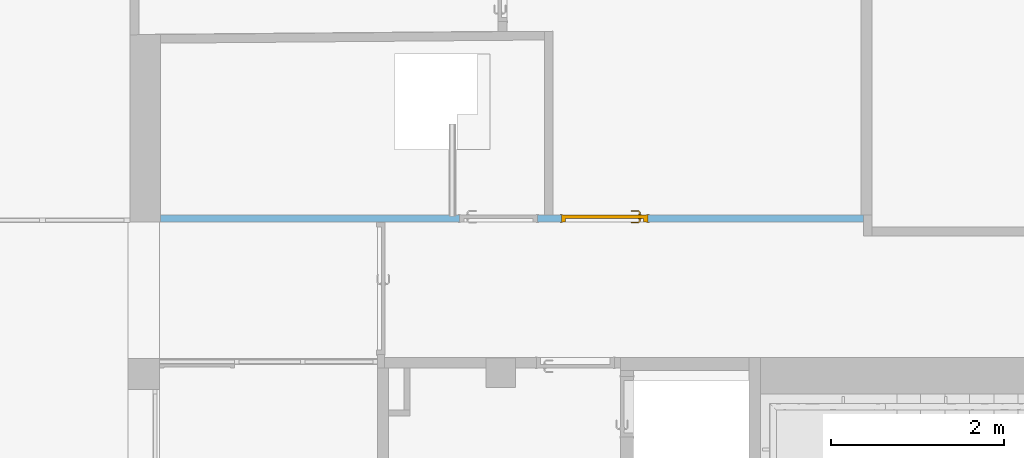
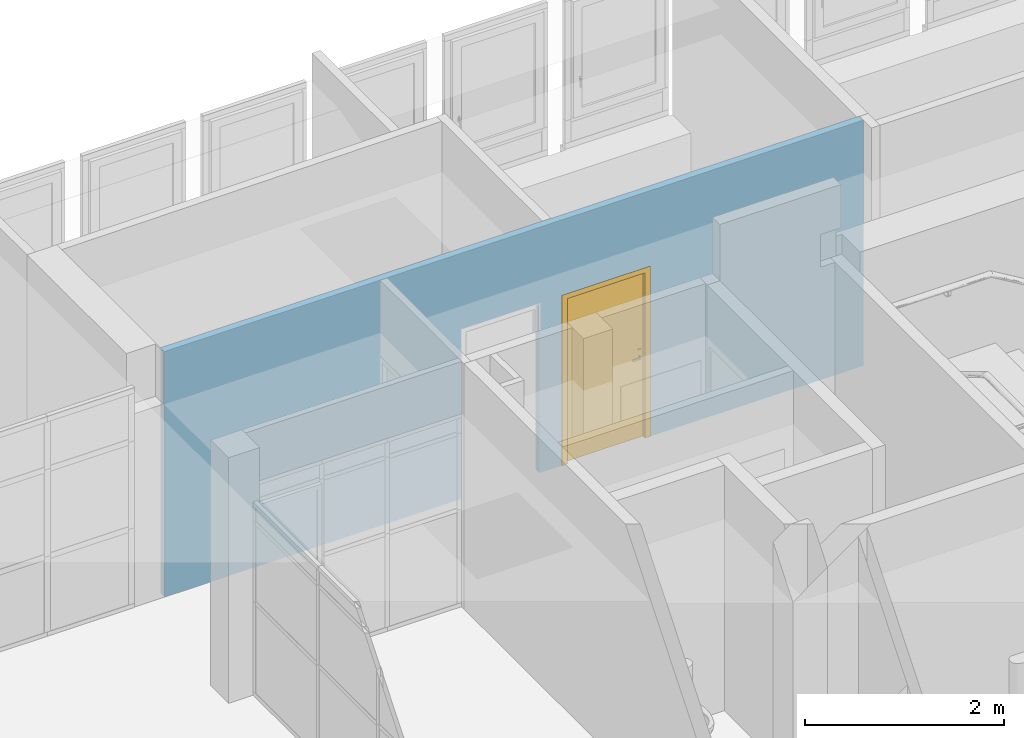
# One storey, part 69 of 97: 1 door, 2 openings, plus 1 element that does not belong to this part.
"""IFC4 building model written with IfcOpenShell, lengths in metres."""

from ifc_helpers import new_model, entity, si_unit, converted_unit, derived_unit, direction, frame, origin, place, context, subcontext, project, spatial, indexed_curve, outline, extrude, polygons, source, transform, mapped, material, material_list, layer, layer_set, constituent, constituent_set, type_object, type_shapes, element, fill, save


model = new_model("IFC4")

# Units and contexts
model_context = context("Model", 3, precision=1e-05, world=origin(), true_north=direction((6.12303176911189e-17, 1.0)))
body_context = subcontext(model_context, "Body", "Model", "MODEL_VIEW")
ifc_project = project(units=[si_unit("LENGTHUNIT", "METRE"), si_unit("AREAUNIT", "SQUARE_METRE"), si_unit("VOLUMEUNIT", "CUBIC_METRE"), converted_unit("PLANEANGLEUNIT", "DEGREE", entity("IfcRatioMeasure", 0.0174532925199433), si_unit("PLANEANGLEUNIT", "RADIAN"), dimensions=[0, 0, 0, 0, 0, 0, 0]), si_unit("MASSUNIT", "GRAM", prefix="KILO"), derived_unit("MASSDENSITYUNIT", [(si_unit("MASSUNIT", "GRAM", prefix="KILO"), 1), (si_unit("LENGTHUNIT", "METRE"), -3)]), derived_unit("MOMENTOFINERTIAUNIT", [(si_unit("LENGTHUNIT", "METRE"), 4)]), si_unit("TIMEUNIT", "SECOND"), si_unit("FREQUENCYUNIT", "HERTZ"), si_unit("THERMODYNAMICTEMPERATUREUNIT", "DEGREE_CELSIUS"), derived_unit("THERMALTRANSMITTANCEUNIT", [(si_unit("MASSUNIT", "GRAM", prefix="KILO"), 1), (si_unit("THERMODYNAMICTEMPERATUREUNIT", "KELVIN"), -1), (si_unit("TIMEUNIT", "SECOND"), -3)]), derived_unit("VOLUMETRICFLOWRATEUNIT", [(si_unit("LENGTHUNIT", "METRE"), 3), (si_unit("TIMEUNIT", "SECOND"), -1)]), si_unit("ELECTRICCURRENTUNIT", "AMPERE"), si_unit("ELECTRICVOLTAGEUNIT", "VOLT"), si_unit("POWERUNIT", "WATT"), si_unit("FORCEUNIT", "NEWTON", prefix="KILO"), si_unit("ILLUMINANCEUNIT", "LUX"), si_unit("LUMINOUSFLUXUNIT", "LUMEN"), si_unit("LUMINOUSINTENSITYUNIT", "CANDELA"), derived_unit("USERDEFINED", [(si_unit("MASSUNIT", "GRAM", prefix="KILO"), -1), (si_unit("LENGTHUNIT", "METRE"), -2), (si_unit("TIMEUNIT", "SECOND"), 3), (si_unit("LUMINOUSFLUXUNIT", "LUMEN"), 1)]), derived_unit("LINEARVELOCITYUNIT", [(si_unit("LENGTHUNIT", "METRE"), 1), (si_unit("TIMEUNIT", "SECOND"), -1)]), si_unit("PRESSUREUNIT", "PASCAL"), derived_unit("USERDEFINED", [(si_unit("LENGTHUNIT", "METRE"), -2), (si_unit("MASSUNIT", "GRAM", prefix="KILO"), 1), (si_unit("TIMEUNIT", "SECOND"), -2)]), derived_unit("LINEARFORCEUNIT", [(si_unit("MASSUNIT", "GRAM", prefix="KILO"), 1), (si_unit("LENGTHUNIT", "METRE"), 1), (si_unit("TIMEUNIT", "SECOND"), -2), (si_unit("LENGTHUNIT", "METRE"), -1)]), derived_unit("PLANARFORCEUNIT", [(si_unit("MASSUNIT", "GRAM", prefix="KILO"), 1), (si_unit("LENGTHUNIT", "METRE"), 1), (si_unit("TIMEUNIT", "SECOND"), -2), (si_unit("LENGTHUNIT", "METRE"), -2)])], contexts=[model_context])

# Site, building, storey
site_placement = place(None, origin())
site = spatial("IfcSite", under=ifc_project, at=site_placement, Name="Default", CompositionType="ELEMENT")
building_placement = place(site_placement, origin())
building = spatial("IfcBuilding", under=site, at=building_placement, Name="HOTEL CONSULAIRE BOULOGNE SUR MER", CompositionType="ELEMENT")
storey_placement = place(building_placement, frame((0.0, 0.0, 3.62152697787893)))
storey = spatial("IfcBuildingStorey", under=building, at=storey_placement, Name="Niveau 1", CompositionType="ELEMENT", Elevation=3.62152697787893)

# Wall, openings, door
ifc_material_1 = material(Name="Mur par défaut", Category="Divers")
ifc_layer = layer(ifc_material_1, 0.08, Name="Mur par défaut", Category="Divers")
ifc_layer_set = layer_set([ifc_layer], Name="Mur de base:Générique - Int. 80")
wall_type = type_object("IfcWallType", Name="Mur de base:Générique - Int. 80", PredefinedType="NOTDEFINED", material=ifc_layer_set)
wall_placement = place(storey_placement, frame((-5.1597731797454, -13.8309141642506, 0.0)))
wall = element("IfcWall", 1, at=wall_placement, inside=storey, type_object=wall_type, material=ifc_layer_set, Name="Mur de base:Générique - Int. 80", ObjectType="Mur de base:Générique - Int. 80", PredefinedType="NOTDEFINED", context=body_context, shape_type="Tessellation", body=[
    polygons([(8.104070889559, 0.0400000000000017, 5.41433564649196e-16), (8.104070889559, -0.0399999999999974, 5.41433564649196e-16), (5.61997356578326, -0.0399999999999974, 5.41433564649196e-16), (5.61997356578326, 0.0400000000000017, 5.41433564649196e-16), (8.074070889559, 0.0400000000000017, 5.41433564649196e-16), (4.34597356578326, -0.0399999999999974, 5.41433564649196e-16), (4.34597356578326, 0.0400000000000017, 5.41433564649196e-16), (4.42697356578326, 0.0400000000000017, 5.41433564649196e-16), (4.52697356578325, 0.0399999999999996, 5.41433564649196e-16), (4.61997356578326, 0.0399999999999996, 5.41433564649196e-16), (4.61997356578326, -0.0399999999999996, 5.41433564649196e-16), (8.104070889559, -0.0399999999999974, 3.0102145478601), (2.57924449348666, -0.0399999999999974, 3.0102145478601), (2.49924449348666, -0.0399999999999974, 3.0102145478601), (-1.96393817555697e-16, -0.0399999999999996, 3.0102145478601), (-1.96393817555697e-16, -0.0399999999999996, 5.41433564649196e-16), (2.49924449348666, -0.0399999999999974, 5.41433564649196e-16), (2.57924449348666, -0.0399999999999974, 5.41433564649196e-16), (3.44597356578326, -0.0399999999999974, 5.41433564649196e-16), (3.44597356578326, -0.0399999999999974, 2.07500000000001), (4.34597356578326, -0.0399999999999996, 2.07500000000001), (4.61997356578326, -0.0399999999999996, 2.07500000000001), (5.61997356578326, -0.0399999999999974, 2.07500000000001), (-4.20095427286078e-16, 0.0399999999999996, 3.0102145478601), (4.42697356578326, 0.0399999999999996, 3.0102145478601), (4.52697356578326, 0.0399999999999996, 3.0102145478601), (8.074070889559, 0.0400000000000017, 3.0102145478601), (8.104070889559, 0.0400000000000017, 3.0102145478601), (5.61997356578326, 0.0400000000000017, 2.07500000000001), (4.61997356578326, 0.0399999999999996, 2.07500000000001), (4.34597356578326, 0.0399999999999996, 2.07500000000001), (3.44597356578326, 0.0400000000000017, 2.07500000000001), (3.44597356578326, 0.0400000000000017, 5.41433564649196e-16), (-4.20095427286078e-16, 0.0399999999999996, 5.41433564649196e-16)], [[[2, 3, 4, 5, 1]], [[11, 6, 7, 8, 9, 10]], [[19, 18, 17, 16, 34, 33]], [[31, 21, 20, 32]], [[23, 22, 30, 29]], [[14, 15, 16, 17, 18, 19, 20, 21, 6, 11, 22, 23, 3, 2, 12, 13]], [[27, 28, 1, 5, 4, 29, 30, 10, 9, 8, 7, 31, 32, 33, 34, 24, 25, 26]], [[13, 12, 28, 27, 26, 25, 24, 15, 14]], [[34, 16, 15, 24]], [[7, 6, 21, 31]], [[3, 23, 29, 4]], [[32, 20, 19, 33]], [[2, 1, 28, 12]], [[11, 10, 30, 22]]], closed=True),
])
opening_1_placement = place(wall_placement, frame((3.44597356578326, -0.0400000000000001, 0.0)))
element("IfcOpeningElement", 2, at=opening_1_placement, cuts=wall, Name="Int. Simple:PP (0.83m x 2.04m):1", ObjectType="Opening", PredefinedType="OPENING", context=body_context, shape_type="SweptSolid", body=[
    extrude(outline(indexed_curve([(0.0, 0.9), (0.0, -5.08607527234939e-30), (2.075, -5.08607527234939e-30), (2.075, 0.9), (0.0, 0.9)], self_intersect=False)), frame((0.0, 0.0, 0.0), z_axis=(0.0, 1.0, 0.0), x_axis=(0.0, 0.0, 1.0)), (0.0, 0.0, 1.0), 0.08),
])
opening_2_placement = place(wall_placement, frame((4.61997356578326, -0.039999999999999, 0.0)))
opening_2 = element("IfcOpeningElement", 3, at=opening_2_placement, cuts=wall, Name="Int. Simple:PP0.93x2.04:1", ObjectType="Opening", PredefinedType="OPENING", context=body_context, shape_type="SweptSolid", body=[
    extrude(outline(indexed_curve([(0.0, -4.28176569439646e-30), (2.075, -4.28176569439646e-30), (2.075, 1.0), (0.0, 1.0), (0.0, -4.28176569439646e-30)], self_intersect=False)), frame((0.0, 0.0, 0.0), z_axis=(0.0, 1.0, 0.0), x_axis=(0.0, 0.0, 1.0)), (0.0, 0.0, 1.0), 0.08),
])
ifc_material_2 = material(Name="Finition Peinture - Blanc satiné", Category="Peinture")
ifc_constituent_1 = constituent(ifc_material_2, Name="Finition Peinture - Blanc satiné", Category="Matériaux")
ifc_material_3 = material(Name="Bois - Panneau de porte", Category="Bois")
ifc_constituent_2 = constituent(ifc_material_3, Name="Bois - Panneau de porte", Category="Matériaux")
ifc_material_4 = material(Name="Bois - Cadre de porte", Category="Bois")
ifc_constituent_3 = constituent(ifc_material_4, Name="Bois - Cadre de porte", Category="Matériaux")
ifc_constituent_set = constituent_set(constituents=[ifc_constituent_1, ifc_constituent_2, ifc_constituent_3], Name="MaterialConstituentSet")
ifc_material_list = material_list([ifc_material_2, ifc_material_4, ifc_material_4, ifc_material_3])
door_type = type_object("IfcDoorType", Name="Int. Simple:PP0.93x2.04", OperationType="NOTDEFINED", PredefinedType="DOOR", material=ifc_material_list)
shared_shape = source(origin(), body_context, "Body", "Tessellation", [
    polygons([(0.075000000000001, -0.00500000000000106, 0.870000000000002), (0.0846472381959, -0.00500000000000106, 0.866003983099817), (0.0950000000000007, -0.00500000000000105, 0.86464101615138), (0.105352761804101, -0.00500000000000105, 0.866003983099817), (0.115, -0.00500000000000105, 0.870000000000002), (0.114999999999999, -0.00500000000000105, 1.08), (0.1053527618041, -0.00500000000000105, 1.08399601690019), (0.0949999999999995, -0.00500000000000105, 1.08535898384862), (0.0846472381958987, -0.00500000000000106, 1.08399601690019), (0.0749999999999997, -0.00500000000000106, 1.08), (0.0749999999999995, -1.06594733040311e-15, 0.870000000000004), (0.0749999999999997, -1.06594733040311e-15, 1.08), (0.0846472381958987, -1.06594733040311e-15, 1.08399601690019), (0.0949999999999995, -1.05748743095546e-15, 1.08535898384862), (0.1053527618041, -1.05748743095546e-15, 1.08399601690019), (0.114999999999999, -1.04902753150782e-15, 1.08), (0.115, -1.04902753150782e-15, 0.870000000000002), (0.105352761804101, -1.05748743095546e-15, 0.866003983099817), (0.0950000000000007, -1.05748743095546e-15, 0.86464101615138), (0.0846472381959, -1.06594733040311e-15, 0.866003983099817)], [[[4, 5, 6, 7, 8, 9, 10, 1, 2, 3]], [[15, 16, 17, 18, 19, 20, 11, 12, 13, 14]], [[11, 20, 2, 1]], [[2, 20, 19, 3]], [[19, 18, 4, 3]], [[18, 17, 5, 4]], [[6, 5, 17, 16]], [[16, 15, 7, 6]], [[7, 15, 14, 8]], [[14, 13, 9, 8]], [[13, 12, 10, 9]], [[1, 10, 12, 11]]], closed=True),
    polygons([(0.114999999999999, 0.0399999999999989, 1.08), (0.1053527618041, 0.0399999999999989, 1.08399601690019), (0.0949999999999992, 0.0399999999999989, 1.08535898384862), (0.0846472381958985, 0.0399999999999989, 1.08399601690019), (0.0749999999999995, 0.0399999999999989, 1.08), (0.075000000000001, 0.0399999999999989, 0.870000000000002), (0.0846472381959, 0.0399999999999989, 0.866003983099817), (0.0950000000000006, 0.0399999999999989, 0.86464101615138), (0.105352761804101, 0.0399999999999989, 0.866003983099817), (0.115, 0.0399999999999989, 0.870000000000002), (0.114999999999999, 0.0449999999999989, 1.08), (0.115, 0.0449999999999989, 0.870000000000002), (0.105352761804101, 0.0449999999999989, 0.866003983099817), (0.0950000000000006, 0.0449999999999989, 0.86464101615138), (0.0846472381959, 0.0449999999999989, 0.866003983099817), (0.0749999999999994, 0.0449999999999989, 0.870000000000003), (0.0749999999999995, 0.0449999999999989, 1.08), (0.0846472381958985, 0.0449999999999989, 1.08399601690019), (0.0949999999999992, 0.0449999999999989, 1.08535898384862), (0.1053527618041, 0.0449999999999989, 1.08399601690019)], [[[9, 10, 1, 2, 3, 4, 5, 6, 7, 8]], [[20, 11, 12, 13, 14, 15, 16, 17, 18, 19]], [[11, 20, 2, 1]], [[2, 20, 19, 3]], [[19, 18, 4, 3]], [[18, 17, 5, 4]], [[6, 5, 17, 16]], [[16, 15, 7, 6]], [[7, 15, 14, 8]], [[14, 13, 9, 8]], [[13, 12, 10, 9]], [[1, 10, 12, 11]]], closed=True),
    polygons([(0.0889999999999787, -0.00500000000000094, 1.007), (0.0929747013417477, -0.00500000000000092, 1.00778044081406), (0.097025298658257, -0.0050000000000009, 1.00778044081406), (0.101000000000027, -0.00500000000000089, 1.00699999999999), (0.101000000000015, -0.00500000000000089, 0.993000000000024), (0.0970252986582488, -0.0050000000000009, 0.992219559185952), (0.0929747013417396, -0.00500000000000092, 0.99221955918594), (0.0889999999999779, -0.00500000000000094, 0.992999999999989), (0.0889999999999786, -0.0326509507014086, 1.007), (0.0929747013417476, -0.0310045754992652, 1.00778044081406), (0.0970252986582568, -0.0293267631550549, 1.00778044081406), (0.101000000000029, -0.0276803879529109, 1.007), (0.101000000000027, -0.0276803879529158, 0.993000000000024), (0.0970252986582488, -0.0293267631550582, 0.992219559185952), (0.0929747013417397, -0.0310045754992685, 0.99221955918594), (0.0889999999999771, -0.0326509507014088, 0.992999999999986), (0.107377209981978, -0.0510281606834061, 1.007), (0.109023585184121, -0.0470534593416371, 1.00778044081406), (0.110701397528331, -0.0430028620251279, 1.00778044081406), (0.112347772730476, -0.0390281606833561, 1.007), (0.112347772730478, -0.0390281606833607, 0.993000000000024), (0.110701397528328, -0.0430028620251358, 0.992219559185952), (0.109023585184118, -0.047053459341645, 0.99221955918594), (0.107377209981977, -0.0510281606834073, 0.992999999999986), (0.195018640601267, -0.0510281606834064, 1.00699999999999), (0.195018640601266, -0.0510281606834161, 0.992999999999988), (0.195018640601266, -0.0470534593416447, 0.99221955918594), (0.195018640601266, -0.0430028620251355, 0.992219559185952), (0.195018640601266, -0.039028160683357, 0.993000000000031), (0.195018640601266, -0.0390281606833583, 1.007), (0.195018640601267, -0.0430028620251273, 1.00778044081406), (0.195018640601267, -0.0470534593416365, 1.00778044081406), (0.147307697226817, -0.0510281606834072, 1.007), (0.152860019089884, -0.045028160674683, 1.0078786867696), (0.15368320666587, -0.039028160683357, 1.007), (0.147307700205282, -0.0510281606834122, 0.992999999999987), (0.152860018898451, -0.0450281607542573, 0.992121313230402), (0.153683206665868, -0.039028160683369, 0.993000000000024)], [[[2, 3, 4, 5, 6, 7, 8, 1]], [[21, 20, 35, 30, 29, 38]], [[9, 10, 2, 1]], [[10, 18, 19, 11, 3, 2]], [[11, 12, 4, 3]], [[5, 4, 12, 13]], [[26, 27, 28, 29, 30, 31, 32, 25]], [[13, 14, 6, 5]], [[14, 22, 23, 15, 7, 6]], [[15, 16, 8, 7]], [[1, 8, 16, 9]], [[17, 18, 10, 9]], [[19, 20, 12, 11]], [[13, 12, 20, 21]], [[21, 22, 14, 13]], [[23, 24, 16, 15]], [[9, 16, 24, 17]], [[33, 32, 34]], [[25, 32, 33]], [[18, 17, 33]], [[34, 35, 19]], [[20, 19, 35]], [[35, 31, 30]], [[32, 31, 34]], [[31, 35, 34]], [[18, 33, 34]], [[18, 34, 19]], [[38, 28, 37]], [[36, 37, 27]], [[21, 38, 22]], [[38, 29, 28]], [[26, 36, 27]], [[24, 23, 36]], [[36, 23, 37]], [[23, 22, 37]], [[22, 38, 37]], [[27, 37, 28]], [[17, 24, 36, 26, 25, 33]]], closed=True),
    polygons([(0.10100000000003, 0.0449999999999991, 0.993000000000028), (0.101000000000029, 0.0449999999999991, 1.007), (0.0970252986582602, 0.0449999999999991, 1.00778044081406), (0.092974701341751, 0.0449999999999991, 1.00778044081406), (0.0889999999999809, 0.044999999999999, 1.007), (0.0889999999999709, 0.044999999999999, 0.992999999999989), (0.0929747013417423, 0.0449999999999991, 0.99221955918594), (0.0970252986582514, 0.0449999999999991, 0.992219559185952), (0.10100000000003, 0.067485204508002, 0.993000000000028), (0.10100000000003, 0.0674852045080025, 1.007), (0.0970252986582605, 0.0691315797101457, 1.00778044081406), (0.0929747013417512, 0.070809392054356, 1.00778044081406), (0.088999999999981, 0.0724557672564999, 1.007), (0.0889999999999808, 0.072455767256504, 0.992999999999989), (0.092974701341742, 0.0708093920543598, 0.99221955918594), (0.0970252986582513, 0.0691315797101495, 0.992219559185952), (0.112485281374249, 0.0789704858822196, 0.993000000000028), (0.112485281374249, 0.0789704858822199, 1.007), (0.110838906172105, 0.0829451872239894, 1.00778044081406), (0.109161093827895, 0.0869957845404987, 1.00778044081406), (0.107514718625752, 0.0909704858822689, 1.007), (0.107514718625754, 0.090970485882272, 0.992999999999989), (0.109161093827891, 0.0869957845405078, 0.99221955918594), (0.110838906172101, 0.0829451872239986, 0.992219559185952), (0.195045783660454, 0.0789704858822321, 0.993000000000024), (0.195045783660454, 0.0829451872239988, 0.992219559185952), (0.195045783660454, 0.086995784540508, 0.99221955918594), (0.195045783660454, 0.0909704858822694, 0.992999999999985), (0.195045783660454, 0.0909704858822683, 1.007), (0.195045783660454, 0.0869957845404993, 1.00778044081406), (0.195045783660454, 0.0829451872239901, 1.00778044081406), (0.195045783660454, 0.0789704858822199, 1.007), (0.147445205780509, 0.0909704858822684, 1.007), (0.152942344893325, 0.0849704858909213, 1.0078786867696), (0.153765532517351, 0.0789704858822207, 1.007), (0.147445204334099, 0.0909704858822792, 0.992999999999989), (0.152942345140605, 0.0849704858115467, 0.992121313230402), (0.153765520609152, 0.0789704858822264, 0.993000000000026)], [[[4, 5, 6, 7, 8, 1, 2, 3]], [[18, 17, 38, 25, 32, 35]], [[2, 1, 9, 10]], [[25, 26, 27, 28, 29, 30, 31, 32]], [[10, 11, 3, 2]], [[11, 19, 20, 12, 4, 3]], [[12, 13, 5, 4]], [[6, 5, 13, 14]], [[14, 15, 7, 6]], [[15, 23, 24, 16, 8, 7]], [[16, 9, 1, 8]], [[10, 9, 17, 18]], [[18, 19, 11, 10]], [[20, 21, 13, 12]], [[14, 13, 21, 22]], [[22, 23, 15, 14]], [[24, 17, 9, 16]], [[35, 31, 34]], [[33, 34, 30]], [[18, 35, 19]], [[35, 32, 31]], [[29, 33, 30]], [[21, 20, 33]], [[33, 20, 34]], [[20, 19, 34]], [[19, 35, 34]], [[30, 34, 31]], [[21, 33, 29, 28, 36, 22]], [[36, 27, 37]], [[28, 27, 36]], [[23, 22, 36]], [[37, 38, 24]], [[17, 24, 38]], [[38, 26, 25]], [[27, 26, 37]], [[26, 38, 37]], [[23, 36, 37]], [[23, 37, 24]]], closed=True),
    polygons([(0.0349999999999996, 0.04, 2.04), (0.965, 0.04, 2.04), (0.965, 0.04, 0.0), (0.0349999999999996, 0.04, 0.0), (0.0349999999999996, 3.38395977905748e-17, 2.04), (0.0349999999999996, 3.38395977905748e-17, 0.0), (0.965, 3.38395977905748e-17, 0.0), (0.965, 3.38395977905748e-17, 2.04)], [[[4, 1, 2, 3]], [[7, 8, 5, 6]], [[2, 1, 5, 8]], [[3, 2, 8, 7]], [[4, 3, 7, 6]], [[1, 4, 6, 5]]], closed=True),
    polygons([(-1.53631773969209e-14, -8.45989944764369e-18, 0.0), (-1.53631773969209e-14, 0.080000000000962, 0.0), (0.0499999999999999, 0.080000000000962, 0.0), (0.0499999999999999, 0.0400000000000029, 0.0), (0.0349999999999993, 0.0400000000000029, 0.0), (0.0349999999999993, -8.45989944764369e-18, 0.0), (-1.51601398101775e-14, -8.45989944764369e-18, 2.07500000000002), (-1.51601398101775e-14, 0.080000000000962, 2.07500000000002), (1.00000000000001, 0.080000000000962, 2.07500000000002), (1.00000000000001, 0.080000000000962, 3.88816484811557e-25), (0.95, 0.080000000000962, 3.59657255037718e-24), (0.95, 0.080000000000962, 2.025), (0.05, 0.080000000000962, 2.025), (0.05, 0.0400000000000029, 2.025), (0.95, 0.0400000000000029, 2.025), (0.95, 0.0400000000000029, 2.24110802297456e-24), (0.965, 0.0400000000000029, -4.78103047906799e-25), (0.965, 0.0400000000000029, 2.04), (0.0349999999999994, 0.0400000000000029, 2.04), (0.0349999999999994, -8.45989944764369e-18, 2.04), (0.965, -8.45989944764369e-18, 2.04), (0.965, -8.45989944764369e-18, -2.84752548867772e-24), (1.00000000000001, -8.45989944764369e-18, -3.95490158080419e-25), (1.00000000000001, -8.45989944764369e-18, 2.07500000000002)], [[[5, 6, 1, 2, 3, 4]], [[11, 10, 23, 22, 17, 16]], [[14, 13, 12, 15]], [[20, 19, 18, 21]], [[2, 1, 7, 8]], [[15, 12, 11, 16]], [[21, 18, 17, 22]], [[3, 2, 8, 9, 10, 11, 12, 13]], [[4, 3, 13, 14]], [[6, 5, 19, 20]], [[9, 24, 23, 10]], [[16, 17, 18, 19, 5, 4, 14, 15]], [[22, 23, 24, 7, 1, 6, 20, 21]], [[8, 7, 24, 9]]], closed=True),
    polygons([(0.0149999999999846, 0.080000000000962, 0.0), (-0.0150000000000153, 0.080000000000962, 0.0), (-0.0150000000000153, 0.085000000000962, 0.0), (0.0149999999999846, 0.085000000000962, 0.0), (0.0149999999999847, 0.080000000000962, 2.06000000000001), (0.98499999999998, 0.080000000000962, 2.06000000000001), (0.98499999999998, 0.080000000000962, -1.80158911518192e-24), (1.01499999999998, 0.080000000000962, -9.00794238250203e-25), (1.01499999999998, 0.080000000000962, 2.09000000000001), (-0.0150000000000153, 0.080000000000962, 2.09000000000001), (-0.0150000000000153, 0.085000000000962, 2.09000000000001), (1.01499999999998, 0.085000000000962, 2.09000000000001), (1.01499999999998, 0.085000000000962, -5.48159974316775e-24), (0.98499999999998, 0.085000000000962, -4.34281663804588e-24), (0.98499999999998, 0.085000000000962, 2.06000000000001), (0.0149999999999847, 0.085000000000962, 2.06000000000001)], [[[1, 2, 3, 4]], [[14, 13, 8, 7]], [[5, 16, 15, 6]], [[7, 8, 9, 10, 2, 1, 5, 6]], [[3, 2, 10, 11]], [[6, 15, 14, 7]], [[4, 3, 11, 12, 13, 14, 15, 16]], [[1, 4, 16, 5]], [[12, 9, 8, 13]], [[11, 10, 9, 12]]], closed=True),
    polygons([(0.0149999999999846, -0.00499999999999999, 0.0), (-0.0150000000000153, -0.00499999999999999, 0.0), (-0.0150000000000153, -8.45989944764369e-18, 0.0), (0.0149999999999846, -8.45989944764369e-18, 0.0), (0.98499999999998, -0.00499999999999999, 5.41433564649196e-16), (0.98499999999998, -8.45989944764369e-18, 5.41433564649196e-16), (1.01499999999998, -8.45989944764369e-18, 5.41433564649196e-16), (1.01499999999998, -0.00499999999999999, 5.41433564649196e-16), (0.0149999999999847, -0.00499999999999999, 2.06000000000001), (0.98499999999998, -0.00499999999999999, 2.06000000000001), (1.01499999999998, -0.00499999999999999, 2.09000000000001), (-0.0150000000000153, -0.00499999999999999, 2.09000000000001), (-0.0150000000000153, -8.45989944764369e-18, 2.09000000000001), (1.01499999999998, -8.45989944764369e-18, 2.09000000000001), (0.98499999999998, -8.45989944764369e-18, 2.06000000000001), (0.0149999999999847, -8.45989944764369e-18, 2.06000000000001)], [[[1, 2, 3, 4]], [[6, 7, 8, 5]], [[9, 16, 15, 10]], [[5, 8, 11, 12, 2, 1, 9, 10]], [[3, 2, 12, 13]], [[10, 15, 6, 5]], [[4, 3, 13, 14, 7, 6, 15, 16]], [[1, 4, 16, 9]], [[14, 11, 8, 7]], [[13, 12, 11, 14]]], closed=True),
])
type_shapes(door_type, [shared_shape])
door_placement = place(opening_2_placement, frame((1.0, 0.0799999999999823, 0.0), z_axis=(0.0, 0.0, 1.0), x_axis=(-1.0, 0.0, 0.0)))
door = element("IfcDoor", 4, at=door_placement, inside=storey, type_object=door_type, material=ifc_constituent_set, Name="Int. Simple:PP0.93x2.04", ObjectType="Int. Simple:PP0.93x2.04", OperationType="NOTDEFINED", OverallHeight=2.075, OverallWidth=1.0, PredefinedType="DOOR", context=body_context, shape_type="MappedRepresentation", body=[
    mapped(shared_shape, transform((0.0, 0.0, 0.0), scale=1.0)),
])
fill(opening_2, door)

save(model, "model.ifc")
